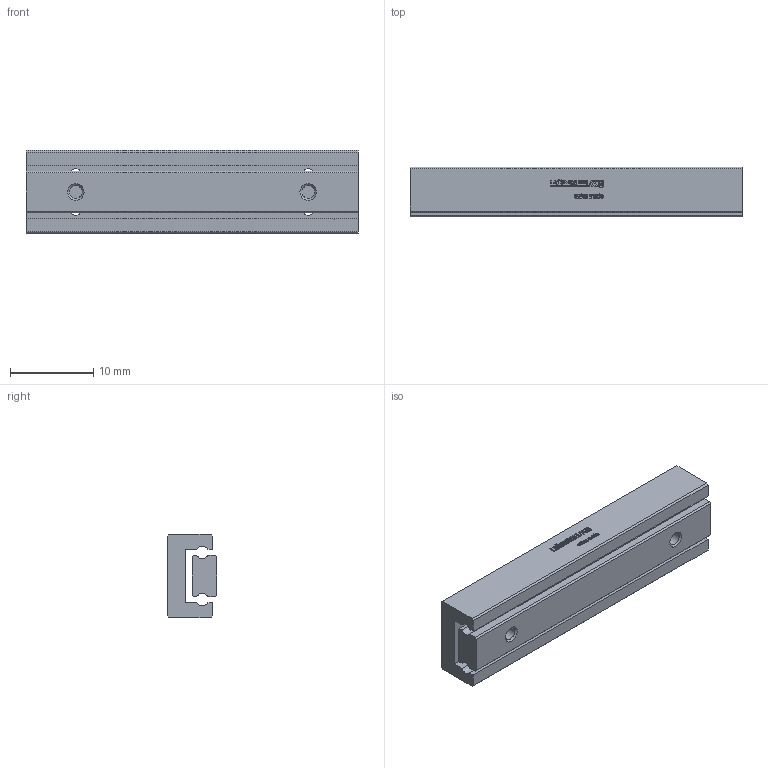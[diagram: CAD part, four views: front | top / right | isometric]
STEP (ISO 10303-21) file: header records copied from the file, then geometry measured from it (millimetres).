
FILE_DESCRIPTION(/* description */ ('STEP AP214'),/* implementation_level */ '2;1');
FILE_NAME(/* name */ 'NDN 1-40.30(0)',/* time_stamp */ '2025-04-16T17:10:12+02:00',/* author */ ('License CC BY-ND 4.0'),/* organization */ ('CADENAS'),/* preprocessor_version */ 'ST-DEVELOPER v19.3',/* originating_system */ 'PARTsolutions',/* authorisation */ ' ');
FILE_SCHEMA (('AUTOMOTIVE_DESIGN {1 0 10303 214 3 1 1}'));
Length unit declared in the file: millimetre
Products named in the file (3): NDN 1-40.30(0); NDN 1-40.30_1; NDN 1-40.30_2
Assembly tree (2 placements, depth 2):
  NDN 1-40.30(0)
    NDN 1-40.30_1
    NDN 1-40.30_2
Bounding box: 40 x 6 x 10 mm (x, y, z)
Volume: 1870.4 mm3; surface area: 2304.9 mm2
Topology: 2 solids, 2 shells, 511 faces, 1432 edges, 952 vertices
Faces by surface type: cylinder 302, plane 201, cone 8
Full cylindrical faces by diameter (mm): 1.567 x6
Entity records: 16723 total; most frequent: DIRECTION 3058, CARTESIAN_POINT 2884, ORIENTED_EDGE 2836, EDGE_CURVE 1418, AXIS2_PLACEMENT_3D 1126, VERTEX_POINT 952, LINE 806, VECTOR 806
